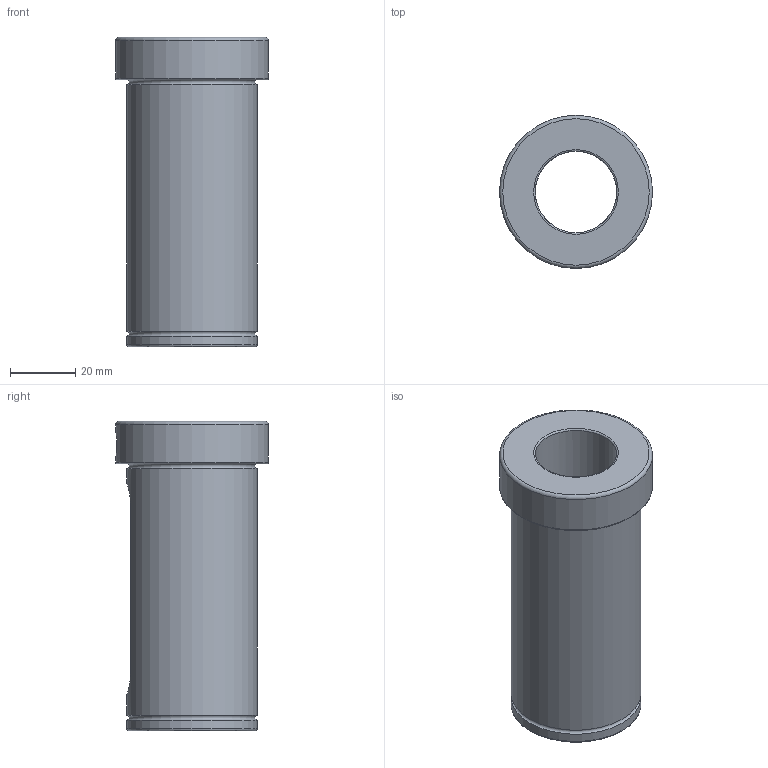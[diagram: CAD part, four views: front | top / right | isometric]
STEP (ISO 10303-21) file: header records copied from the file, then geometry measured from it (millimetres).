
FILE_DESCRIPTION(/* description */ (''),/* implementation_level */ '2;1');
FILE_NAME(/* name */ '',/* time_stamp */ '2025-04-15T13:14:32+03:00',/* author */ ('User'),/* organization */ (''),/* preprocessor_version */ 'ST-DEVELOPER v19.2',/* originating_system */ 'Autodesk Inventor 2024',/* authorisation */ '');
FILE_SCHEMA (('AUTOMOTIVE_DESIGN { 1 0 10303 214 3 1 1 }'));
Length unit declared in the file: millimetre
Products named in the file (1): Втулка переходная 
D40-d6
Bounding box: 47 x 47 x 95 mm (x, y, z)
Volume: 71357.1 mm3; surface area: 22031.9 mm2
Topology: 1 solids, 1 shells, 34 faces, 90 edges, 60 vertices
Faces by surface type: plane 16, cylinder 10, torus 7, bspline 1
Full cylindrical faces by diameter (mm): 7 x1, 7.2 x1, 8 x1, 25 x1, 26 x1, 40 x2, 47 x1
Entity records: 1321 total; most frequent: CARTESIAN_POINT 383, DIRECTION 182, ORIENTED_EDGE 180, EDGE_CURVE 90, AXIS2_PLACEMENT_3D 71, VERTEX_POINT 60, EDGE_LOOP 40, LINE 40
